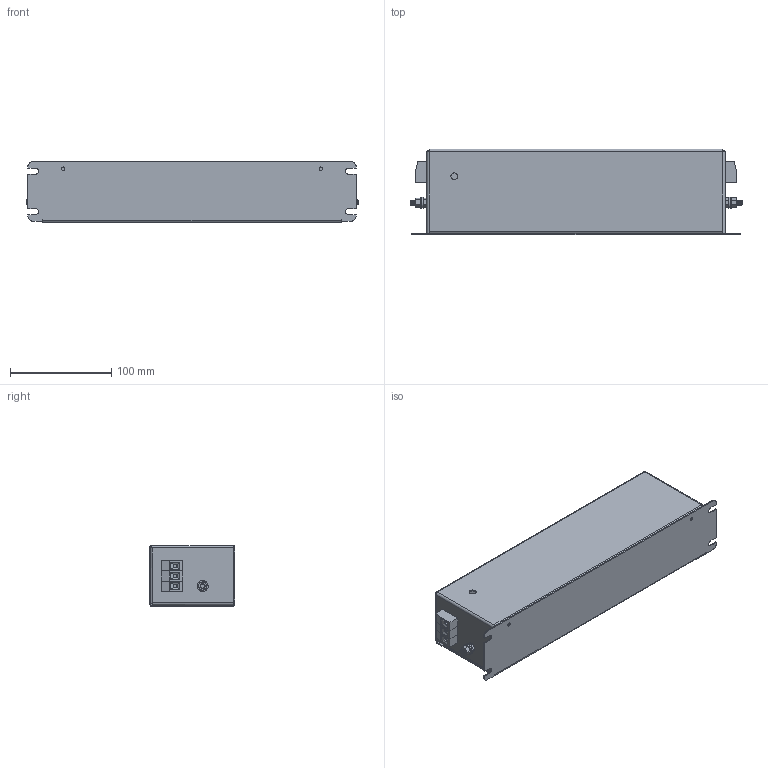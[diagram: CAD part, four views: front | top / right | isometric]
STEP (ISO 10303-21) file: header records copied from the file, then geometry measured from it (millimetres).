
FILE_DESCRIPTION (( 'STEP AP203' ), '1' );
FILE_NAME ('177000 NF-KC-DAR-16.STEP', '2017-07-25T14:15:48', ( '' ), ( '' ), 'SwSTEP 2.0', 'SolidWorks 2017', '' );
FILE_SCHEMA (( 'CONFIG_CONTROL_DESIGN' ));
Length unit declared in the file: millimetre
Products named in the file (9): hex screw_am_B18.6.7M - M5 x 0.8 x 13 Indented HHMS --13S; 177000 NF-KC-DAR-16 case; hex nut style 1_am_B18.2.4.1M - Hex nut, Style 1,  M5 x 0.8 --D-N; 177000 NF-KC-DAR-16; VDFK-4; VDFK4x3; flat washer narrow_am_B18.22M - Plain washer, 5 mm, narrow; 177000 NF-KC-DAR-16 lid; M5x13 Earth post
Assembly tree (13 placements, depth 3):
  177000 NF-KC-DAR-16
    177000 NF-KC-DAR-16 case
    177000 NF-KC-DAR-16 lid
    VDFK4x3  x2
      VDFK-4
    M5x13 Earth post  x2
      hex screw_am_B18.6.7M - M5 x 0.8 x 13 Indented HHMS --13S
      flat washer narrow_am_B18.22M - Plain washer, 5 mm, narrow
      hex nut style 1_am_B18.2.4.1M - Hex nut, Style 1,  M5 x 0.8 --D-N
Bounding box: 328.6 x 85 x 60 mm (x, y, z)
Volume: 139589.2 mm3; surface area: 219824 mm2
Topology: 16 solids, 16 shells, 730 faces, 1800 edges, 1130 vertices
Faces by surface type: plane 352, cylinder 202, cone 176
Entity records: 12682 total; most frequent: DIRECTION 2115, CARTESIAN_POINT 2102, ORIENTED_EDGE 1910, EDGE_CURVE 955, AXIS2_PLACEMENT_3D 797, VERTEX_POINT 592, LINE 521, VECTOR 521
